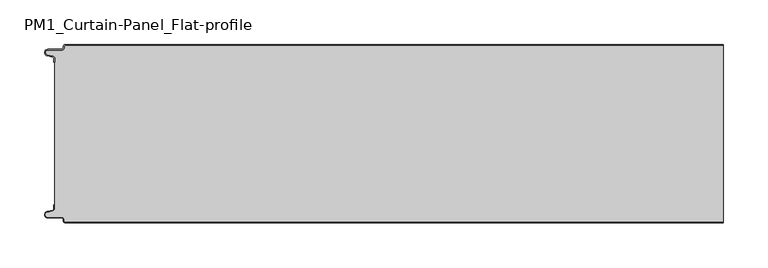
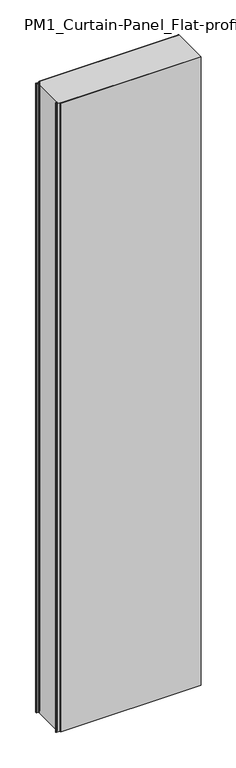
"""IFC4 building model written with IfcOpenShell, lengths in millimetres: plate geometry, PM1_Curtain-Panel_Flat-profile : ACH_PM1_Stone-wool-Panel_200M."""

import ifcopenshell
import ifcopenshell.guid

model = None  # the IFC model being written
_history = None  # IfcOwnerHistory: only IFC2X3 demands one
_inside = {}  # id of a spatial element -> (the spatial element, [elements in it])
_under = {}  # id of a project, library or spatial element -> (it, [spatial elements below it])
_declared = {}  # id of a project -> (the project, [libraries it declares])
_typed = {}  # id of a type object -> (the type object, [elements of that type])
_made_of = {}  # id of a material, layer set ... -> (it, [elements and type objects made of it])


def new_model(schema):
    """Start an empty IFC model of exactly this schema.

    Asked for "IFC4X3", IfcOpenShell would pick the latest addendum, in which some entities
    have other attributes; the version numbers below select the first issue.
    IFC2X3 requires an IfcOwnerHistory on every rooted entity: one is made here for all.
    """
    global model, _history
    if schema == "IFC4X3":
        model = ifcopenshell.file(schema_version=(4, 3, 0, 0))
    else:
        model = ifcopenshell.file(schema=schema)
    _inside.clear()
    _under.clear()
    _declared.clear()
    _typed.clear()
    _made_of.clear()
    _history = None
    if model.schema == "IFC2X3":
        org = make("IfcOrganization", Name="unknown")
        user = make(
            "IfcPersonAndOrganization",
            ThePerson=make("IfcPerson", FamilyName="unknown"),
            TheOrganization=org,
        )
        app = make(
            "IfcApplication",
            ApplicationDeveloper=org,
            Version="unknown",
            ApplicationFullName="unknown",
            ApplicationIdentifier="unknown",
        )
        _history = make(
            "IfcOwnerHistory",
            OwningUser=user,
            OwningApplication=app,
            ChangeAction="ADDED",
            CreationDate=0,
        )
    return model


def make(cls, **values):
    """One entity of the class cls with the attributes given. An attribute that is None is left unset."""
    return model.create_entity(
        cls, **{name: value for name, value in values.items() if value is not None}
    )


def rooted(cls, **values):
    """An entity with a GlobalId (a new one), such as an element, a storey or a relation."""
    return make(cls, GlobalId=ifcopenshell.guid.new(), OwnerHistory=_history, **values)


def si_unit(unit_type, name, prefix=None):
    """IfcSIUnit, for example si_unit("LENGTHUNIT", "METRE", prefix="MILLI")."""
    return make("IfcSIUnit", UnitType=unit_type, Prefix=prefix, Name=name)


def assignment(units):
    """IfcUnitAssignment: the units of a project."""
    return None if units is None else make("IfcUnitAssignment", Units=units)


def point(xyz):
    """IfcCartesianPoint."""
    return None if xyz is None else make("IfcCartesianPoint", Coordinates=xyz)


def direction(xyz):
    """IfcDirection."""
    return None if xyz is None else make("IfcDirection", DirectionRatios=xyz)


def frame(location, z_axis=None, x_axis=None):
    """IfcAxis2Placement3D, a coordinate frame: its origin and axes. An axis left out is left unset."""
    return make(
        "IfcAxis2Placement3D",
        Location=point(location),
        Axis=direction(z_axis),
        RefDirection=direction(x_axis),
    )


def frame_2d(location, x_axis=None):
    """IfcAxis2Placement2D, a coordinate frame in the plane: its origin and x axis."""
    return make(
        "IfcAxis2Placement2D", Location=point(location), RefDirection=direction(x_axis)
    )


def origin():
    """The frame at (0, 0, 0) with its axes left unset."""
    return frame((0.0, 0.0, 0.0))


def origin_with_axes():
    """The frame at (0, 0, 0) with the z axis (0, 0, 1) and the x axis (1, 0, 0) written out."""
    return frame((0.0, 0.0, 0.0), z_axis=(0.0, 0.0, 1.0), x_axis=(1.0, 0.0, 0.0))


def place(relative_to, where):
    """IfcLocalPlacement: puts the frame where relative to a parent placement (None: the world)."""
    return make(
        "IfcLocalPlacement", PlacementRelTo=relative_to, RelativePlacement=where
    )


def context(
    kind, dimensions, precision=None, world=None, true_north=None, identifier=None
):
    """IfcGeometricRepresentationContext, for example the 3D "Model" context."""
    return make(
        "IfcGeometricRepresentationContext",
        ContextIdentifier=identifier,
        ContextType=kind,
        CoordinateSpaceDimension=dimensions,
        Precision=precision,
        WorldCoordinateSystem=world,
        TrueNorth=true_north,
    )


def project(units=None, contexts=None):
    """IfcProject with its units and contexts."""
    return rooted(
        "IfcProject",
        Name="project",
        RepresentationContexts=contexts,
        UnitsInContext=assignment(units),
    )


def spatial(cls, under=None, at=None, **own):
    """A site, building, storey or space (cls), placed at a placement, below another one or the project."""
    s = rooted(cls, ObjectPlacement=at, **own)
    if under is not None:
        _under.setdefault(under.id(), (under, []))[1].append(s)
    return s


def polyline(points):
    """IfcPolyline through the points."""
    return make("IfcPolyline", Points=[point(p) for p in points])


def circle_curve(where, radius):
    """IfcCircle in the frame where."""
    return make("IfcCircle", Position=where, Radius=radius)


def trimmed(basis, trim1, trim2, sense, master):
    """IfcTrimmedCurve: the piece of a basis curve between two trims."""
    return make(
        "IfcTrimmedCurve",
        BasisCurve=basis,
        Trim1=trim1,
        Trim2=trim2,
        SenseAgreement=sense,
        MasterRepresentation=master,
    )


def segment(curve, same_sense, transition):
    """IfcCompositeCurveSegment."""
    return make(
        "IfcCompositeCurveSegment",
        Transition=transition,
        SameSense=same_sense,
        ParentCurve=curve,
    )


def composite_curve(segments, self_intersect=None):
    """IfcCompositeCurve: segments joined end to end."""
    return make("IfcCompositeCurve", Segments=segments, SelfIntersect=self_intersect)


def outline(outer, holes=None, kind="AREA"):
    """IfcArbitraryClosedProfileDef: a profile drawn as a closed curve; with holes, ...WithVoids."""
    if holes is None:
        return make("IfcArbitraryClosedProfileDef", ProfileType=kind, OuterCurve=outer)
    return make(
        "IfcArbitraryProfileDefWithVoids",
        ProfileType=kind,
        OuterCurve=outer,
        InnerCurves=holes,
    )


def extrude(swept, where, along, depth):
    """IfcExtrudedAreaSolid: the profile swept, set in the frame where, extruded along a direction by depth."""
    return make(
        "IfcExtrudedAreaSolid",
        SweptArea=swept,
        Position=where,
        ExtrudedDirection=direction(along),
        Depth=depth,
    )


def shape(context_of_items, identifier, shape_type, items):
    """IfcShapeRepresentation: the items that make up one representation, for example the "Body"."""
    return make(
        "IfcShapeRepresentation",
        ContextOfItems=context_of_items,
        RepresentationIdentifier=identifier,
        RepresentationType=shape_type,
        Items=items,
    )


def source(mapping_origin, context_of_items, identifier, shape_type, items):
    """IfcRepresentationMap: a shape defined once, which mapped items show again and again."""
    return make(
        "IfcRepresentationMap",
        MappingOrigin=mapping_origin,
        MappedRepresentation=shape(context_of_items, identifier, shape_type, items),
    )


def transform(
    local_origin,
    x_axis=None,
    y_axis=None,
    z_axis=None,
    scale=None,
    scale2=None,
    scale3=None,
    uniform=True,
):
    """IfcCartesianTransformationOperator3D, or its non-uniform kind. x_axis, y_axis, z_axis: its Axis1, 2, 3."""
    if uniform:
        return make(
            "IfcCartesianTransformationOperator3D",
            Axis1=direction(x_axis),
            Axis2=direction(y_axis),
            LocalOrigin=point(local_origin),
            Scale=scale,
            Axis3=direction(z_axis),
        )
    return make(
        "IfcCartesianTransformationOperator3DnonUniform",
        Axis1=direction(x_axis),
        Axis2=direction(y_axis),
        LocalOrigin=point(local_origin),
        Scale=scale,
        Axis3=direction(z_axis),
        Scale2=scale2,
        Scale3=scale3,
    )


def mapped(mapping_source, mapping_target):
    """IfcMappedItem: shows the shape of a source again, moved by a transform."""
    return make(
        "IfcMappedItem", MappingSource=mapping_source, MappingTarget=mapping_target
    )


def made_of(thing, what):
    """Note that an element or type object is made of a material, layer set ...; save() writes the relation."""
    if what is not None:
        _made_of.setdefault(what.id(), (what, []))[1].append(thing)
    return thing


def element(
    cls,
    number,
    at=None,
    inside=None,
    cuts=None,
    type_object=None,
    material=None,
    context=None,
    identifier="Body",
    shape_type=None,
    held_by="IfcProductDefinitionShape",
    body=None,
    shapes=None,
    **own,
):
    """One element of the class cls, such as IfcWall. Its Tag is "e" and its number.

    at: its placement. inside: the storey or other place that contains it. cuts: it is an
    opening in that element (IfcRelVoidsElement). A single representation is given by context,
    identifier, shape_type and body (its items); several are given by shapes. held_by: the class
    of the entity that holds the representations. save() writes the other relations.
    """
    e = rooted(cls, Tag="e%d" % number, ObjectPlacement=at, **own)
    if body is not None:
        shapes = [shape(context, identifier, shape_type, body)]
    if shapes is not None:
        e.Representation = make(held_by, Representations=shapes)
    if inside is not None:
        _inside.setdefault(inside.id(), (inside, []))[1].append(e)
    if cuts is not None:
        rooted(
            "IfcRelVoidsElement", RelatingBuildingElement=cuts, RelatedOpeningElement=e
        )
    if type_object is not None:
        _typed.setdefault(type_object.id(), (type_object, []))[1].append(e)
    return made_of(e, material)


def aggregate(whole, parts):
    """IfcRelAggregates: a whole, such as a stair, and the parts it consists of."""
    return rooted("IfcRelAggregates", RelatingObject=whole, RelatedObjects=parts)


def save(model, path):
    """Write the relations noted so far, then the file.

    IfcRelAggregates (storeys below a building ...), IfcRelContainedInSpatialStructure (elements
    in a storey), IfcRelDefinesByType, IfcRelAssociatesMaterial and IfcRelDeclares: one each for
    every whole, place, type object, material and project.
    """
    for whole, parts in _under.values():
        aggregate(whole, parts)
    for where, things in _inside.values():
        rooted(
            "IfcRelContainedInSpatialStructure",
            RelatedElements=things,
            RelatingStructure=where,
        )
    for kind, things in _typed.values():
        rooted("IfcRelDefinesByType", RelatedObjects=things, RelatingType=kind)
    for what, things in _made_of.values():
        rooted("IfcRelAssociatesMaterial", RelatedObjects=things, RelatingMaterial=what)
    for by, libraries in _declared.values():
        rooted("IfcRelDeclares", RelatingContext=by, RelatedDefinitions=libraries)
    model.write(path)


def pm1_curtain_panel_flat_profile_f8a9f7f1(model_context):
    return source(origin(), model_context, "Body", "SweptSolid", [
        extrude(outline(composite_curve([segment(trimmed(circle_curve(frame_2d((-362.4, -2.0)), 1.2), [point((-362.4, -0.8))], [point((-363.6, -2.0))], True, "CARTESIAN"), True, "CONTINUOUS"), segment(polyline([(-363.6, -2.0), (-363.6, -3.4)]), True, "CONTINUOUS"), segment(trimmed(circle_curve(frame_2d((-366.4, -3.4)), 2.8), [point((-363.6, -3.4))], [point((-366.4, -6.2))], False, "CARTESIAN"), True, "CONTINUOUS"), segment(polyline([(-366.4, -6.2), (-381.9, -6.2)]), True, "CONTINUOUS"), segment(trimmed(circle_curve(frame_2d((-381.9, -9.0)), 2.8), [point((-381.9, -6.2))], [point((-382.529863, -11.7282362))], True, "CARTESIAN"), True, "CONTINUOUS"), segment(polyline([(-382.529863, -11.7282362), (-376.370137, -13.150321)]), True, "CONTINUOUS"), segment(trimmed(circle_curve(frame_2d((-377.0, -15.878557)), 2.8), [point((-376.370137, -13.150321))], [point((-374.2, -15.878557))], False, "CARTESIAN"), True, "CONTINUOUS"), segment(polyline([(-374.2, -15.878557), (-374.2, -20.0), (-375.0, -20.0), (-375.0, -15.878557)]), True, "CONTINUOUS"), segment(trimmed(circle_curve(frame_2d((-377.0, -15.878557)), 2.0), [point((-375.0, -15.878557))], [point((-376.5500978, -13.9298169))], True, "CARTESIAN"), True, "CONTINUOUS"), segment(polyline([(-376.5500978, -13.9298169), (-382.7098239, -12.507732)]), True, "CONTINUOUS"), segment(trimmed(circle_curve(frame_2d((-381.9, -9.0)), 3.6), [point((-382.7098239, -12.507732))], [point((-381.9, -5.4))], False, "CARTESIAN"), True, "CONTINUOUS"), segment(polyline([(-381.9, -5.4), (-366.4, -5.4)]), True, "CONTINUOUS"), segment(trimmed(circle_curve(frame_2d((-366.4, -3.4)), 2.0), [point((-366.4, -5.4))], [point((-364.4, -3.4))], True, "CARTESIAN"), True, "CONTINUOUS"), segment(polyline([(-364.4, -3.4), (-364.4, -2.0)]), True, "CONTINUOUS"), segment(trimmed(circle_curve(frame_2d((-362.4, -2.0)), 2.0), [point((-364.4, -2.0))], [point((-362.4, 0.0))], False, "CARTESIAN"), True, "CONTINUOUS"), segment(polyline([(-362.4, 0.0), (375.0, 0.0), (375.0, -0.8), (-362.4, -0.8)]), True, "CONTINUOUS")], self_intersect=False)), origin_with_axes(), (0.0, 0.0, 1.0), 3500.0),
        extrude(outline(composite_curve([segment(polyline([(-374.2, -184.1214426), (-374.2, -15.8785573)]), True, "CONTINUOUS"), segment(trimmed(circle_curve(frame_2d((-377.0, -15.8785573)), 2.8), [point((-374.2, -15.8785573))], [point((-376.370137, -13.1503212))], True, "CARTESIAN"), True, "CONTINUOUS"), segment(polyline([(-376.370137, -13.1503212), (-382.5298631, -11.7282362)]), True, "CONTINUOUS"), segment(trimmed(circle_curve(frame_2d((-381.9, -9.0)), 2.8), [point((-382.5298631, -11.7282362))], [point((-381.9, -6.2))], False, "CARTESIAN"), True, "CONTINUOUS"), segment(polyline([(-381.9, -6.2), (-366.4000001, -6.2)]), True, "CONTINUOUS"), segment(trimmed(circle_curve(frame_2d((-366.4000001, -3.4)), 2.8), [point((-366.4000001, -6.2))], [point((-363.6000001, -3.4))], True, "CARTESIAN"), True, "CONTINUOUS"), segment(polyline([(-363.6000001, -3.4), (-363.6000001, -2.0)]), True, "CONTINUOUS"), segment(trimmed(circle_curve(frame_2d((-362.4000001, -2.0)), 1.2), [point((-363.6000001, -2.0))], [point((-362.4000001, -0.8))], False, "CARTESIAN"), True, "CONTINUOUS"), segment(polyline([(-362.4000001, -0.8), (375.0, -0.8), (375.0, -199.2), (-362.4000001, -199.2)]), True, "CONTINUOUS"), segment(trimmed(circle_curve(frame_2d((-362.4000001, -198.0)), 1.2), [point((-362.4000001, -199.2))], [point((-363.6000001, -198.0))], False, "CARTESIAN"), True, "CONTINUOUS"), segment(polyline([(-363.6000001, -198.0), (-363.6000001, -196.6)]), True, "CONTINUOUS"), segment(trimmed(circle_curve(frame_2d((-366.4000001, -196.6)), 2.8), [point((-363.6000001, -196.6))], [point((-366.4000001, -193.8))], True, "CARTESIAN"), True, "CONTINUOUS"), segment(polyline([(-366.4000001, -193.8), (-381.9, -193.8)]), True, "CONTINUOUS"), segment(trimmed(circle_curve(frame_2d((-381.9, -191.0)), 2.8), [point((-381.9, -193.8))], [point((-382.5298631, -188.2717638))], False, "CARTESIAN"), True, "CONTINUOUS"), segment(polyline([(-382.5298631, -188.2717638), (-376.370137, -186.8496788)]), True, "CONTINUOUS"), segment(trimmed(circle_curve(frame_2d((-377.0, -184.1214426)), 2.8), [point((-376.370137, -186.8496788))], [point((-374.2, -184.1214426))], True, "CARTESIAN"), True, "CONTINUOUS")], self_intersect=False)), origin_with_axes(), (0.0, 0.0, 1.0), 3500.0),
        extrude(outline(composite_curve([segment(trimmed(circle_curve(frame_2d((-362.4, -198.0)), 2.0), [point((-362.4, -200.0))], [point((-364.4, -198.0))], False, "CARTESIAN"), True, "CONTINUOUS"), segment(polyline([(-364.4, -198.0), (-364.4, -196.6)]), True, "CONTINUOUS"), segment(trimmed(circle_curve(frame_2d((-366.4, -196.6)), 2.0), [point((-364.4, -196.6))], [point((-366.4, -194.6))], True, "CARTESIAN"), True, "CONTINUOUS"), segment(polyline([(-366.4, -194.6), (-381.9, -194.6)]), True, "CONTINUOUS"), segment(trimmed(circle_curve(frame_2d((-381.9, -191.0)), 3.6), [point((-381.9, -194.6))], [point((-382.7098239, -187.4922678))], False, "CARTESIAN"), True, "CONTINUOUS"), segment(polyline([(-382.7098239, -187.4922678), (-376.5500979, -186.070183)]), True, "CONTINUOUS"), segment(trimmed(circle_curve(frame_2d((-377.0, -184.121443)), 2.0), [point((-376.5500979, -186.070183))], [point((-375.0, -184.121443))], True, "CARTESIAN"), True, "CONTINUOUS"), segment(polyline([(-375.0, -184.121443), (-375.0, -180.0), (-374.2, -180.0), (-374.2, -184.121443)]), True, "CONTINUOUS"), segment(trimmed(circle_curve(frame_2d((-377.0, -184.121443)), 2.8), [point((-374.2, -184.121443))], [point((-376.370137, -186.8496792))], False, "CARTESIAN"), True, "CONTINUOUS"), segment(polyline([(-376.370137, -186.8496792), (-382.529863, -188.271764)]), True, "CONTINUOUS"), segment(trimmed(circle_curve(frame_2d((-381.9, -191.0)), 2.8), [point((-382.529863, -188.271764))], [point((-381.9, -193.8))], True, "CARTESIAN"), True, "CONTINUOUS"), segment(polyline([(-381.9, -193.8), (-366.4, -193.8)]), True, "CONTINUOUS"), segment(trimmed(circle_curve(frame_2d((-366.4, -196.6)), 2.8), [point((-366.4, -193.8))], [point((-363.6, -196.6))], False, "CARTESIAN"), True, "CONTINUOUS"), segment(polyline([(-363.6, -196.6), (-363.6, -198.0)]), True, "CONTINUOUS"), segment(trimmed(circle_curve(frame_2d((-362.4, -198.0)), 1.2), [point((-363.6, -198.0))], [point((-362.4, -199.2))], True, "CARTESIAN"), True, "CONTINUOUS"), segment(polyline([(-362.4, -199.2), (375.0, -199.2), (375.0, -200.0), (-362.4, -200.0)]), True, "CONTINUOUS")], self_intersect=False)), origin_with_axes(), (0.0, 0.0, 1.0), 3500.0),
    ])


if __name__ == "__main__":
    model = new_model("IFC4")
    model_context = context("Model", 3, world=origin())
    ifc_project = project(units=[si_unit("LENGTHUNIT", "METRE", prefix="MILLI")], contexts=[model_context])
    site = spatial("IfcSite", under=ifc_project)
    building = spatial("IfcBuilding", under=site)
    placement = place(None, origin())
    pm1_curtain_panel_flat_profile_shape = pm1_curtain_panel_flat_profile_f8a9f7f1(model_context)
    element("IfcPlate", 1, ObjectType="PM1_Curtain-Panel_Flat-profile : ACH_PM1_Stone-wool-Panel_200M", at=placement, inside=building, context=model_context, shape_type="MappedRepresentation", body=[
        mapped(pm1_curtain_panel_flat_profile_shape, transform((0.0, 0.0, 0.0), x_axis=(1.0, 0.0, 0.0), y_axis=(0.0, 1.0, 0.0), z_axis=(0.0, 0.0, 1.0))),
    ])
    save(model, "model.ifc")
